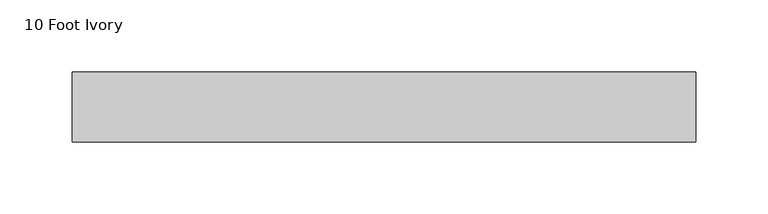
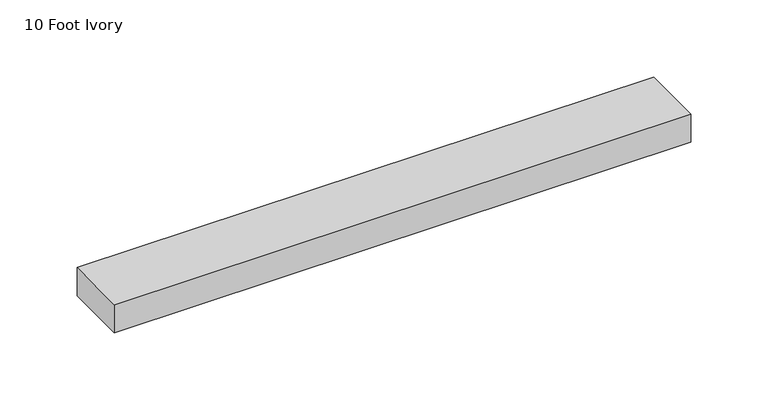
"""IFC4 building model written with IfcOpenShell, lengths in millimetres: proxy geometry, Raceway-2400_Series-Wiremold-Steel : 10 Foot Ivory."""

from ifc_helpers import new_model, si_unit, origin, origin_with_axes, place, context, project, spatial, polyline, outline, extrude, source, transform, mapped, element, save


def proxy_10_foot_ivory_fb6cb572(model_context):
    return source(origin(), model_context, "Body", "SweptSolid", [
        extrude(outline(polyline([(431.8, 24.2062), (431.8, -24.2062), (0.0, -24.2062), (0.0, 24.2062), (431.8, 24.2062)])), origin_with_axes(), (0.0, 0.0, 1.0), 22.225),
    ])


if __name__ == "__main__":
    model = new_model("IFC4")
    model_context = context("Model", 3, world=origin())
    ifc_project = project(units=[si_unit("LENGTHUNIT", "METRE", prefix="MILLI")], contexts=[model_context])
    site = spatial("IfcSite", under=ifc_project)
    building = spatial("IfcBuilding", under=site)
    placement = place(None, origin())
    proxy_10_foot_ivory_shape = proxy_10_foot_ivory_fb6cb572(model_context)
    element("IfcBuildingElementProxy", 1, Name="Raceway-2400_Series-Wiremold-Steel : 10 Foot Ivory", ObjectType="Raceway-2400_Series-Wiremold-Steel : 10 Foot Ivory", at=placement, inside=building, context=model_context, shape_type="MappedRepresentation", body=[
        mapped(proxy_10_foot_ivory_shape, transform((0.0, 0.0, 0.0), x_axis=(1.0, 0.0, 0.0), y_axis=(0.0, 1.0, 0.0), z_axis=(0.0, 0.0, 1.0))),
    ])
    save(model, "model.ifc")
